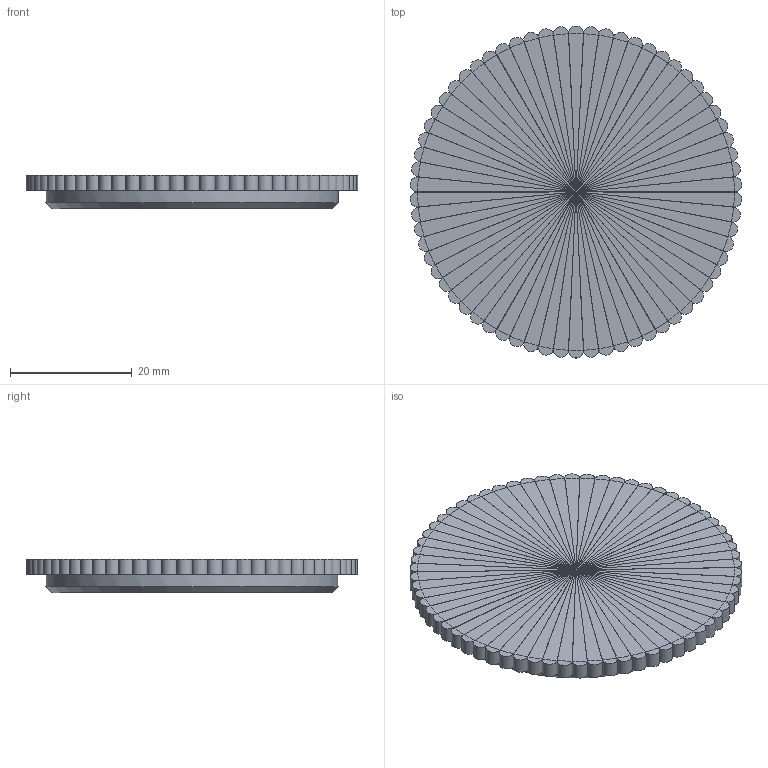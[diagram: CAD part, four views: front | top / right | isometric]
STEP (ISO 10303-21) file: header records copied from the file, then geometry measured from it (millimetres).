
FILE_DESCRIPTION(('FreeCAD Model'),'2;1');
FILE_NAME('Open CASCADE Shape Model','2024-11-17T12:05:29',(''),(''), 'Open CASCADE STEP processor 7.6','FreeCAD','Unknown');
FILE_SCHEMA(('AUTOMOTIVE_DESIGN { 1 0 10303 214 1 1 1 1 }'));
Length unit declared in the file: millimetre
Products named in the file (1): Reservoir Cap mod Awacs_v2
Bounding box: 54.44 x 54.49 x 5.5 mm (x, y, z)
Volume: 11072.3 mm3; surface area: 5545.5 mm2
Topology: 1 solids, 1 shells, 597 faces, 1393 edges, 798 vertices
Faces by surface type: plane 529, cylinder 67, cone 1
Full cylindrical faces by diameter (mm): 48 x1
Entity records: 17214 total; most frequent: DIRECTION 3650, CARTESIAN_POINT 2789, ORIENTED_EDGE 2786, AXIS2_PLACEMENT_3D 1659, EDGE_CURVE 1393, CIRCLE 1061, VERTEX_POINT 798, ADVANCED_FACE 597
